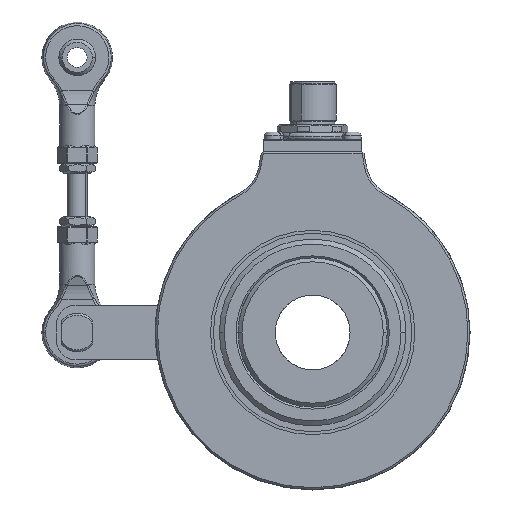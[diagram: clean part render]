
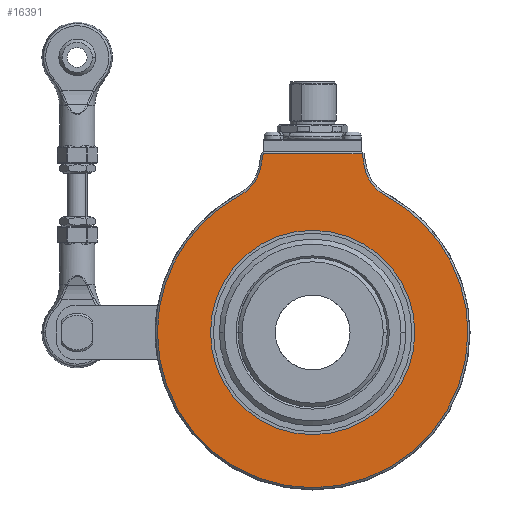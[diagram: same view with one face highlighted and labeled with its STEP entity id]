
A CAD part, left-side view. The second image highlights one B-rep face of the part: STEP entity #16391.
In plain terms, the highlighted planar face has unit normal (-1, 0, 0).
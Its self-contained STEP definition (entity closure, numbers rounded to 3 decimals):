
#428 = CARTESIAN_POINT ( 'NONE',  ( -26., 12.58, 45.5 ) ) ;
#482 = AXIS2_PLACEMENT_3D ( 'NONE', #19365, #19627, #10847 ) ;
#497 = CARTESIAN_POINT ( 'NONE',  ( -26., -26., 0. ) ) ;
#546 = EDGE_LOOP ( 'NONE', ( #9859, #14594 ) ) ;
#725 = DIRECTION ( 'NONE',  ( 1., 0., 0. ) ) ;
#1229 = EDGE_CURVE ( 'NONE', #6319, #4405, #12440, .T. ) ;
#1521 = VERTEX_POINT ( 'NONE', #9457 ) ;
#1604 = VERTEX_POINT ( 'NONE', #17047 ) ;
#1832 = CIRCLE ( 'NONE', #3206, 39.5 ) ;
#1920 = EDGE_CURVE ( 'NONE', #4405, #6319, #25328, .T. ) ;
#1998 = CARTESIAN_POINT ( 'NONE',  ( -26., 40., 0. ) ) ;
#2059 = LINE ( 'NONE', #4487, #8892 ) ;
#2332 = CARTESIAN_POINT ( 'NONE',  ( -26., 0., 0. ) ) ;
#2686 = ORIENTED_EDGE ( 'NONE', *, *, #10064, .T. ) ;
#2843 = ORIENTED_EDGE ( 'NONE', *, *, #18064, .T. ) ;
#2931 = CARTESIAN_POINT ( 'NONE',  ( -26., 0., 0. ) ) ;
#3024 = EDGE_CURVE ( 'NONE', #8062, #1604, #3724, .T. ) ;
#3206 = AXIS2_PLACEMENT_3D ( 'NONE', #11462, #11905, #17957 ) ;
#3724 = CIRCLE ( 'NONE', #482, 39.5 ) ;
#4405 = VERTEX_POINT ( 'NONE', #497 ) ;
#4487 = CARTESIAN_POINT ( 'NONE',  ( -26., 21.188, -3.317 ) ) ;
#4552 = DIRECTION ( 'NONE',  ( 1., 0., 0. ) ) ;
#5016 = CARTESIAN_POINT ( 'NONE',  ( -26., 0., 0. ) ) ;
#5230 = VERTEX_POINT ( 'NONE', #5993 ) ;
#5426 = VECTOR ( 'NONE', #11743, 1000. ) ;
#5651 = VERTEX_POINT ( 'NONE', #19349 ) ;
#5945 = CARTESIAN_POINT ( 'NONE',  ( -26., 18.551, 34.873 ) ) ;
#5963 = CARTESIAN_POINT ( 'NONE',  ( -26., -12.58, 45.5 ) ) ;
#5993 = CARTESIAN_POINT ( 'NONE',  ( -26., 13.141, 42.32 ) ) ;
#6319 = VERTEX_POINT ( 'NONE', #9776 ) ;
#6467 = CARTESIAN_POINT ( 'NONE',  ( -26., 39.5, 0. ) ) ;
#6563 = AXIS2_PLACEMENT_3D ( 'NONE', #5016, #17704, #26460 ) ;
#6587 = ORIENTED_EDGE ( 'NONE', *, *, #14606, .T. ) ;
#7825 = EDGE_CURVE ( 'NONE', #1521, #5651, #10403, .T. ) ;
#8062 = VERTEX_POINT ( 'NONE', #6467 ) ;
#8892 = VECTOR ( 'NONE', #10825, 1000. ) ;
#9296 = DIRECTION ( 'NONE',  ( 0., -1., 0. ) ) ;
#9316 = VECTOR ( 'NONE', #20384, 1000. ) ;
#9397 = EDGE_CURVE ( 'NONE', #24571, #8062, #1832, .T. ) ;
#9457 = CARTESIAN_POINT ( 'NONE',  ( -26., -18.551, 34.873 ) ) ;
#9538 = DIRECTION ( 'NONE',  ( 0., 1., 0. ) ) ;
#9776 = CARTESIAN_POINT ( 'NONE',  ( -26., 26., 0. ) ) ;
#9791 = DIRECTION ( 'NONE',  ( 0., -1., 0. ) ) ;
#9859 = ORIENTED_EDGE ( 'NONE', *, *, #1229, .T. ) ;
#10064 = EDGE_CURVE ( 'NONE', #1604, #1521, #18998, .T. ) ;
#10356 = LINE ( 'NONE', #19137, #5426 ) ;
#10403 = CIRCLE ( 'NONE', #19572, 10.5 ) ;
#10825 = DIRECTION ( 'NONE',  ( 0., 0.174, -0.985 ) ) ;
#10847 = DIRECTION ( 'NONE',  ( 0., -1., 0. ) ) ;
#11462 = CARTESIAN_POINT ( 'NONE',  ( -26., 0., 0. ) ) ;
#11743 = DIRECTION ( 'NONE',  ( 0., 1., 0. ) ) ;
#11905 = DIRECTION ( 'NONE',  ( -1., 0., 0. ) ) ;
#12368 = ORIENTED_EDGE ( 'NONE', *, *, #9397, .T. ) ;
#12440 = CIRCLE ( 'NONE', #19778, 26. ) ;
#13238 = ORIENTED_EDGE ( 'NONE', *, *, #7825, .T. ) ;
#13243 = DIRECTION ( 'NONE',  ( 1., 0., 0. ) ) ;
#13348 = VERTEX_POINT ( 'NONE', #5963 ) ;
#13751 = CARTESIAN_POINT ( 'NONE',  ( -26., 23.482, 44.143 ) ) ;
#14594 = ORIENTED_EDGE ( 'NONE', *, *, #1920, .T. ) ;
#14606 = EDGE_CURVE ( 'NONE', #26242, #5230, #2059, .T. ) ;
#15184 = EDGE_CURVE ( 'NONE', #5651, #13348, #22693, .T. ) ;
#15662 = AXIS2_PLACEMENT_3D ( 'NONE', #2931, #20471, #9538 ) ;
#16155 = ORIENTED_EDGE ( 'NONE', *, *, #20583, .T. ) ;
#16391 = ADVANCED_FACE ( 'NONE', ( #26149, #19541 ), #28031, .T. ) ;
#16505 = ORIENTED_EDGE ( 'NONE', *, *, #3024, .T. ) ;
#17047 = CARTESIAN_POINT ( 'NONE',  ( -26., -39.5, 0. ) ) ;
#17528 = DIRECTION ( 'NONE',  ( 0., -1., 0. ) ) ;
#17704 = DIRECTION ( 'NONE',  ( -1., 0., 0. ) ) ;
#17957 = DIRECTION ( 'NONE',  ( 0., -1., 0. ) ) ;
#18064 = EDGE_CURVE ( 'NONE', #5230, #24571, #27375, .T. ) ;
#18998 = CIRCLE ( 'NONE', #6563, 39.5 ) ;
#19137 = CARTESIAN_POINT ( 'NONE',  ( -26., 40., 45.5 ) ) ;
#19349 = CARTESIAN_POINT ( 'NONE',  ( -26., -13.141, 42.32 ) ) ;
#19365 = CARTESIAN_POINT ( 'NONE',  ( -26., 0., 0. ) ) ;
#19541 = FACE_BOUND ( 'NONE', #546, .T. ) ;
#19572 = AXIS2_PLACEMENT_3D ( 'NONE', #20298, #725, #9791 ) ;
#19627 = DIRECTION ( 'NONE',  ( -1., 0., 0. ) ) ;
#19778 = AXIS2_PLACEMENT_3D ( 'NONE', #2332, #13243, #23893 ) ;
#20298 = CARTESIAN_POINT ( 'NONE',  ( -26., -23.482, 44.143 ) ) ;
#20384 = DIRECTION ( 'NONE',  ( 0., 0.174, 0.985 ) ) ;
#20471 = DIRECTION ( 'NONE',  ( 1., 0., 0. ) ) ;
#20583 = EDGE_CURVE ( 'NONE', #13348, #26242, #10356, .T. ) ;
#20660 = ORIENTED_EDGE ( 'NONE', *, *, #15184, .T. ) ;
#22693 = LINE ( 'NONE', #22986, #9316 ) ;
#22986 = CARTESIAN_POINT ( 'NONE',  ( -26., -18.776, 10.364 ) ) ;
#23893 = DIRECTION ( 'NONE',  ( 0., 1., 0. ) ) ;
#24571 = VERTEX_POINT ( 'NONE', #5945 ) ;
#24617 = AXIS2_PLACEMENT_3D ( 'NONE', #13751, #4552, #9296 ) ;
#25328 = CIRCLE ( 'NONE', #15662, 26. ) ;
#26149 = FACE_OUTER_BOUND ( 'NONE', #28379, .T. ) ;
#26242 = VERTEX_POINT ( 'NONE', #428 ) ;
#26369 = AXIS2_PLACEMENT_3D ( 'NONE', #1998, #26435, #17528 ) ;
#26435 = DIRECTION ( 'NONE',  ( -1., 0., 0. ) ) ;
#26460 = DIRECTION ( 'NONE',  ( 0., -1., 0. ) ) ;
#27375 = CIRCLE ( 'NONE', #24617, 10.5 ) ;
#28031 = PLANE ( 'NONE',  #26369 ) ;
#28379 = EDGE_LOOP ( 'NONE', ( #20660, #16155, #6587, #2843, #12368, #16505, #2686, #13238 ) ) ;
